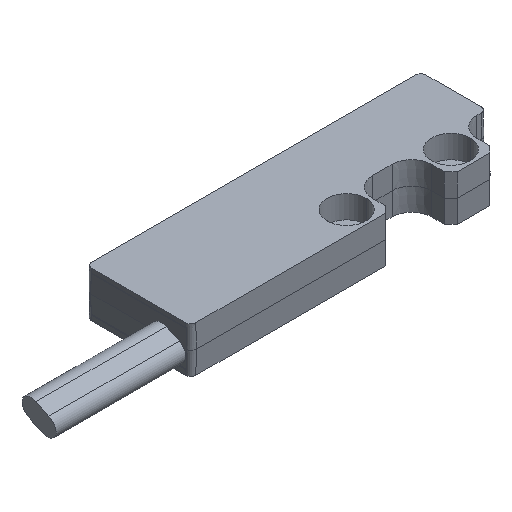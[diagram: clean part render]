
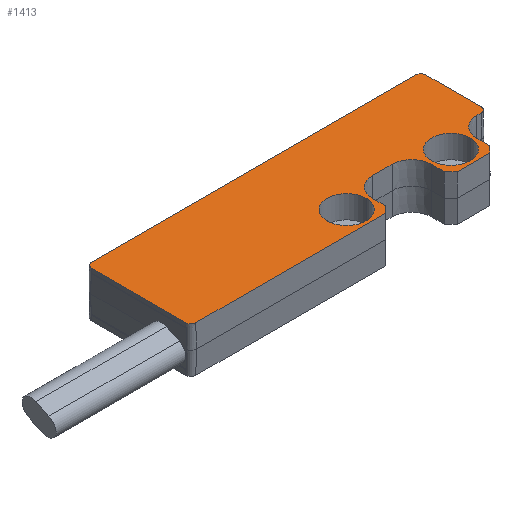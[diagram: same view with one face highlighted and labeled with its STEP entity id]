
A CAD part, isometric view. The second image highlights one B-rep face of the part: STEP entity #1413.
In plain terms, the highlighted planar face has unit normal (0, 0, 1).
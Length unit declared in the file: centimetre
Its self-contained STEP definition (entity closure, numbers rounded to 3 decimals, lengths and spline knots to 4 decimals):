
#15=FACE_BOUND('',#244,.T.);
#16=FACE_BOUND('',#245,.T.);
#54=CIRCLE('',#1464,0.0769);
#61=CIRCLE('',#1475,0.3);
#63=CIRCLE('',#1478,0.3);
#76=CIRCLE('',#1511,0.0769);
#77=CIRCLE('',#1514,0.0769);
#78=CIRCLE('',#1517,0.0769);
#79=CIRCLE('',#1520,0.3031);
#80=CIRCLE('',#1527,0.3031);
#81=CIRCLE('',#1530,0.3031);
#84=CIRCLE('',#1538,0.3);
#85=CIRCLE('',#1539,0.3);
#163=FACE_OUTER_BOUND('',#243,.T.);
#243=EDGE_LOOP('',(#1167,#1168,#1169,#1170,#1171,#1172,#1173,#1174,#1175,
#1176,#1177,#1178,#1179,#1180,#1181,#1182,#1183,#1184,#1185,#1186));
#244=EDGE_LOOP('',(#1187,#1188));
#245=EDGE_LOOP('',(#1189,#1190));
#309=LINE('',#2081,#449);
#366=LINE('',#2246,#506);
#369=LINE('',#2254,#509);
#372=LINE('',#2262,#512);
#375=LINE('',#2270,#515);
#377=LINE('',#2274,#517);
#379=LINE('',#2278,#519);
#381=LINE('',#2282,#521);
#383=LINE('',#2286,#523);
#386=LINE('',#2294,#526);
#389=LINE('',#2302,#529);
#391=LINE('',#2306,#531);
#393=LINE('',#2309,#533);
#449=VECTOR('',#1681,1.45);
#506=VECTOR('',#1840,4.98);
#509=VECTOR('',#1849,0.85);
#512=VECTOR('',#1858,0.07);
#515=VECTOR('',#1867,0.1987);
#517=VECTOR('',#1871,0.1389);
#519=VECTOR('',#1875,0.4975);
#521=VECTOR('',#1879,0.1389);
#523=VECTOR('',#1883,0.1987);
#526=VECTOR('',#1892,0.3);
#529=VECTOR('',#1901,0.1987);
#531=VECTOR('',#1905,0.1389);
#533=VECTOR('',#1909,2.9087);
#578=VERTEX_POINT('',#2078);
#579=VERTEX_POINT('',#2080);
#581=VERTEX_POINT('',#2086);
#593=VERTEX_POINT('',#2115);
#595=VERTEX_POINT('',#2119);
#597=VERTEX_POINT('',#2124);
#599=VERTEX_POINT('',#2128);
#635=VERTEX_POINT('',#2241);
#636=VERTEX_POINT('',#2245);
#637=VERTEX_POINT('',#2249);
#638=VERTEX_POINT('',#2253);
#639=VERTEX_POINT('',#2257);
#640=VERTEX_POINT('',#2261);
#641=VERTEX_POINT('',#2265);
#642=VERTEX_POINT('',#2269);
#643=VERTEX_POINT('',#2273);
#644=VERTEX_POINT('',#2277);
#645=VERTEX_POINT('',#2281);
#646=VERTEX_POINT('',#2285);
#647=VERTEX_POINT('',#2289);
#648=VERTEX_POINT('',#2293);
#649=VERTEX_POINT('',#2297);
#650=VERTEX_POINT('',#2301);
#651=VERTEX_POINT('',#2305);
#717=EDGE_CURVE('',#578,#579,#309,.T.);
#721=EDGE_CURVE('',#581,#578,#54,.T.);
#736=EDGE_CURVE('',#593,#595,#61,.T.);
#740=EDGE_CURVE('',#597,#599,#63,.T.);
#796=EDGE_CURVE('',#579,#635,#76,.T.);
#798=EDGE_CURVE('',#635,#636,#366,.T.);
#800=EDGE_CURVE('',#636,#637,#77,.T.);
#802=EDGE_CURVE('',#637,#638,#369,.T.);
#804=EDGE_CURVE('',#638,#639,#78,.T.);
#806=EDGE_CURVE('',#639,#640,#372,.T.);
#808=EDGE_CURVE('',#640,#641,#79,.T.);
#810=EDGE_CURVE('',#641,#642,#375,.T.);
#812=EDGE_CURVE('',#642,#643,#377,.T.);
#814=EDGE_CURVE('',#643,#644,#379,.T.);
#816=EDGE_CURVE('',#644,#645,#381,.T.);
#818=EDGE_CURVE('',#645,#646,#383,.T.);
#820=EDGE_CURVE('',#646,#647,#80,.T.);
#822=EDGE_CURVE('',#647,#648,#386,.T.);
#824=EDGE_CURVE('',#648,#649,#81,.T.);
#826=EDGE_CURVE('',#649,#650,#389,.T.);
#828=EDGE_CURVE('',#650,#651,#391,.T.);
#830=EDGE_CURVE('',#651,#581,#393,.T.);
#833=EDGE_CURVE('',#595,#593,#84,.T.);
#834=EDGE_CURVE('',#599,#597,#85,.T.);
#1167=ORIENTED_EDGE('',*,*,#717,.F.);
#1168=ORIENTED_EDGE('',*,*,#721,.F.);
#1169=ORIENTED_EDGE('',*,*,#830,.F.);
#1170=ORIENTED_EDGE('',*,*,#828,.F.);
#1171=ORIENTED_EDGE('',*,*,#826,.F.);
#1172=ORIENTED_EDGE('',*,*,#824,.F.);
#1173=ORIENTED_EDGE('',*,*,#822,.F.);
#1174=ORIENTED_EDGE('',*,*,#820,.F.);
#1175=ORIENTED_EDGE('',*,*,#818,.F.);
#1176=ORIENTED_EDGE('',*,*,#816,.F.);
#1177=ORIENTED_EDGE('',*,*,#814,.F.);
#1178=ORIENTED_EDGE('',*,*,#812,.F.);
#1179=ORIENTED_EDGE('',*,*,#810,.F.);
#1180=ORIENTED_EDGE('',*,*,#808,.F.);
#1181=ORIENTED_EDGE('',*,*,#806,.F.);
#1182=ORIENTED_EDGE('',*,*,#804,.F.);
#1183=ORIENTED_EDGE('',*,*,#802,.F.);
#1184=ORIENTED_EDGE('',*,*,#800,.F.);
#1185=ORIENTED_EDGE('',*,*,#798,.F.);
#1186=ORIENTED_EDGE('',*,*,#796,.F.);
#1187=ORIENTED_EDGE('',*,*,#736,.T.);
#1188=ORIENTED_EDGE('',*,*,#833,.T.);
#1189=ORIENTED_EDGE('',*,*,#740,.T.);
#1190=ORIENTED_EDGE('',*,*,#834,.T.);
#1266=PLANE('',#1537);
#1413=ADVANCED_FACE('',(#163,#15,#16),#1266,.T.);
#1464=AXIS2_PLACEMENT_3D('',#2088,#1688,#1689);
#1475=AXIS2_PLACEMENT_3D('',#2121,#1718,#1719);
#1478=AXIS2_PLACEMENT_3D('',#2130,#1726,#1727);
#1511=AXIS2_PLACEMENT_3D('',#2242,#1835,#1836);
#1514=AXIS2_PLACEMENT_3D('',#2250,#1844,#1845);
#1517=AXIS2_PLACEMENT_3D('',#2258,#1853,#1854);
#1520=AXIS2_PLACEMENT_3D('',#2266,#1862,#1863);
#1527=AXIS2_PLACEMENT_3D('',#2290,#1887,#1888);
#1530=AXIS2_PLACEMENT_3D('',#2298,#1896,#1897);
#1537=AXIS2_PLACEMENT_3D('',#2313,#1916,#1917);
#1538=AXIS2_PLACEMENT_3D('',#2314,#1918,#1919);
#1539=AXIS2_PLACEMENT_3D('',#2315,#1920,#1921);
#1681=DIRECTION('',(0.,1.,0.));
#1688=DIRECTION('center_axis',(0.,0.,-1.));
#1689=DIRECTION('ref_axis',(1.,0.,0.));
#1718=DIRECTION('center_axis',(0.,0.,-1.));
#1719=DIRECTION('ref_axis',(1.,0.,0.));
#1726=DIRECTION('center_axis',(0.,0.,-1.));
#1727=DIRECTION('ref_axis',(1.,0.,0.));
#1835=DIRECTION('center_axis',(0.,0.,-1.));
#1836=DIRECTION('ref_axis',(1.,0.,0.));
#1840=DIRECTION('',(1.,0.,0.));
#1844=DIRECTION('center_axis',(0.,0.,-1.));
#1845=DIRECTION('ref_axis',(1.,0.,0.));
#1849=DIRECTION('',(0.,-1.,0.));
#1853=DIRECTION('center_axis',(0.,0.,-1.));
#1854=DIRECTION('ref_axis',(1.,0.,0.));
#1858=DIRECTION('',(-1.,0.,0.));
#1862=DIRECTION('center_axis',(0.,0.,1.));
#1863=DIRECTION('ref_axis',(1.,0.,0.));
#1867=DIRECTION('',(0.,-1.,0.));
#1871=DIRECTION('',(-0.707,-0.707,0.));
#1875=DIRECTION('',(-1.,0.,0.));
#1879=DIRECTION('',(-0.707,0.707,0.));
#1883=DIRECTION('',(0.,1.,0.));
#1887=DIRECTION('center_axis',(0.,0.,1.));
#1888=DIRECTION('ref_axis',(1.,0.,0.));
#1892=DIRECTION('',(-1.,0.,0.));
#1896=DIRECTION('center_axis',(0.,0.,1.));
#1897=DIRECTION('ref_axis',(1.,0.,0.));
#1901=DIRECTION('',(0.,-1.,0.));
#1905=DIRECTION('',(-0.707,-0.707,0.));
#1909=DIRECTION('',(-1.,0.,0.));
#1916=DIRECTION('center_axis',(0.,0.,1.));
#1917=DIRECTION('ref_axis',(1.,0.,0.));
#1918=DIRECTION('center_axis',(0.,0.,-1.));
#1919=DIRECTION('ref_axis',(1.,0.,0.));
#1920=DIRECTION('center_axis',(0.,0.,-1.));
#1921=DIRECTION('ref_axis',(1.,0.,0.));
#2078=CARTESIAN_POINT('',(-2.5669,-0.725,0.35));
#2080=CARTESIAN_POINT('',(-2.5669,0.725,0.35));
#2081=CARTESIAN_POINT('',(-2.5669,-0.725,0.35));
#2086=CARTESIAN_POINT('',(-2.49,-0.8019,0.35));
#2088=CARTESIAN_POINT('Origin',(-2.49,-0.725,0.35));
#2115=CARTESIAN_POINT('',(2.07,-0.455,0.35));
#2119=CARTESIAN_POINT('',(1.47,-0.455,0.35));
#2121=CARTESIAN_POINT('Origin',(1.77,-0.455,0.35));
#2124=CARTESIAN_POINT('',(0.47,-0.455,0.35));
#2128=CARTESIAN_POINT('',(-0.13,-0.455,0.35));
#2130=CARTESIAN_POINT('Origin',(0.17,-0.455,0.35));
#2241=CARTESIAN_POINT('',(-2.49,0.8019,0.35));
#2242=CARTESIAN_POINT('Origin',(-2.49,0.725,0.35));
#2245=CARTESIAN_POINT('',(2.49,0.8019,0.35));
#2246=CARTESIAN_POINT('',(-2.49,0.8019,0.35));
#2249=CARTESIAN_POINT('',(2.5669,0.725,0.35));
#2250=CARTESIAN_POINT('Origin',(2.49,0.725,0.35));
#2253=CARTESIAN_POINT('',(2.5669,-0.125,0.35));
#2254=CARTESIAN_POINT('',(2.5669,0.725,0.35));
#2257=CARTESIAN_POINT('',(2.49,-0.2019,0.35));
#2258=CARTESIAN_POINT('Origin',(2.49,-0.125,0.35));
#2261=CARTESIAN_POINT('',(2.42,-0.2019,0.35));
#2262=CARTESIAN_POINT('',(2.49,-0.2019,0.35));
#2265=CARTESIAN_POINT('',(2.1169,-0.505,0.35));
#2266=CARTESIAN_POINT('Origin',(2.42,-0.505,0.35));
#2269=CARTESIAN_POINT('',(2.1169,-0.7037,0.35));
#2270=CARTESIAN_POINT('',(2.1169,-0.505,0.35));
#2273=CARTESIAN_POINT('',(2.0187,-0.8019,0.35));
#2274=CARTESIAN_POINT('',(2.1169,-0.7037,0.35));
#2277=CARTESIAN_POINT('',(1.5213,-0.8019,0.35));
#2278=CARTESIAN_POINT('',(2.0187,-0.8019,0.35));
#2281=CARTESIAN_POINT('',(1.4231,-0.7037,0.35));
#2282=CARTESIAN_POINT('',(1.5213,-0.8019,0.35));
#2285=CARTESIAN_POINT('',(1.4231,-0.505,0.35));
#2286=CARTESIAN_POINT('',(1.4231,-0.7037,0.35));
#2289=CARTESIAN_POINT('',(1.12,-0.2019,0.35));
#2290=CARTESIAN_POINT('Origin',(1.12,-0.505,0.35));
#2293=CARTESIAN_POINT('',(0.82,-0.2019,0.35));
#2294=CARTESIAN_POINT('',(1.12,-0.2019,0.35));
#2297=CARTESIAN_POINT('',(0.5169,-0.505,0.35));
#2298=CARTESIAN_POINT('Origin',(0.82,-0.505,0.35));
#2301=CARTESIAN_POINT('',(0.5169,-0.7037,0.35));
#2302=CARTESIAN_POINT('',(0.5169,-0.505,0.35));
#2305=CARTESIAN_POINT('',(0.4187,-0.8019,0.35));
#2306=CARTESIAN_POINT('',(0.5169,-0.7037,0.35));
#2309=CARTESIAN_POINT('',(0.4187,-0.8019,0.35));
#2313=CARTESIAN_POINT('Origin',(2.8236,0.8821,0.35));
#2314=CARTESIAN_POINT('Origin',(1.77,-0.455,0.35));
#2315=CARTESIAN_POINT('Origin',(0.17,-0.455,0.35));
